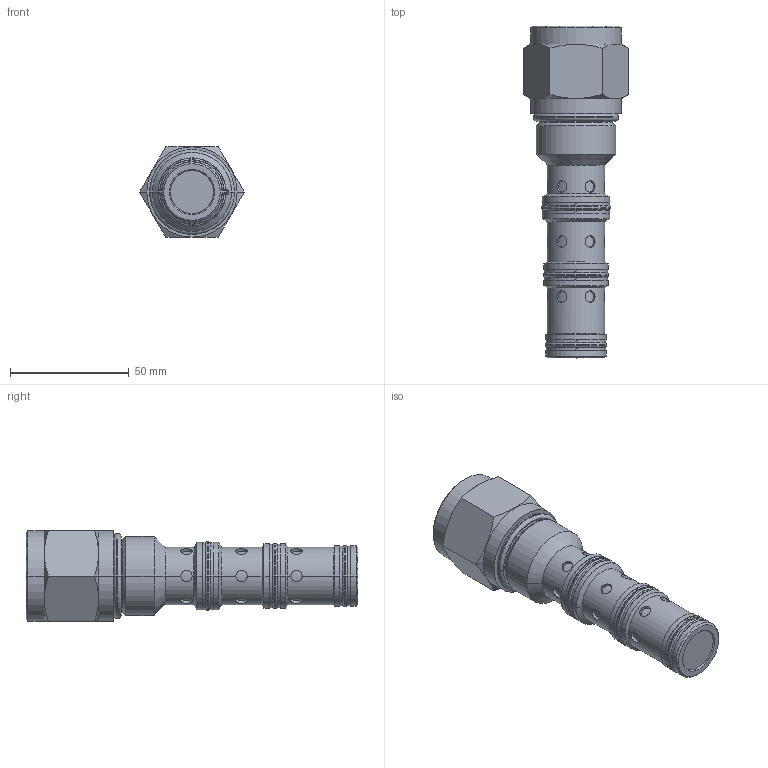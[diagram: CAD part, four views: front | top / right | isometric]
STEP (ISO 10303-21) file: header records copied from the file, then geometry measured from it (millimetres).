
FILE_DESCRIPTION((''),'2;1');
FILE_NAME('DCPS-16-A-F-OUT','2015-12-22T',('torrese'),(''),'PRO/ENGINEER BY PARAMETRIC TECHNOLOGY CORPORATION, 2015070','PRO/ENGINEER BY PARAMETRIC TECHNOLOGY CORPORATION, 2015070','');
FILE_SCHEMA(('CONFIG_CONTROL_DESIGN','GEOMETRIC_VALIDATION_PROPERTIES_MIM'));
Length unit declared in the file: inch
Products named in the file (1): DCPS-16-A-F-OUT
Bounding box: 43.99 x 139.45 x 38.1 mm (x, y, z)
Volume: 102063.2 mm3; surface area: 17228.3 mm2
Topology: 1 solids, 1 shells, 203 faces, 450 edges, 270 vertices
Faces by surface type: cylinder 113, plane 39, cone 27, torus 24
Entity records: 14813 total; most frequent: CARTESIAN_POINT 7969, DIRECTION 927, ORIENTED_EDGE 900, PRESENTATION_STYLE_ASSIGNMENT 578, STYLED_ITEM 457, CURVE_STYLE 450, EDGE_CURVE 450, AXIS2_PLACEMENT_3D 386
